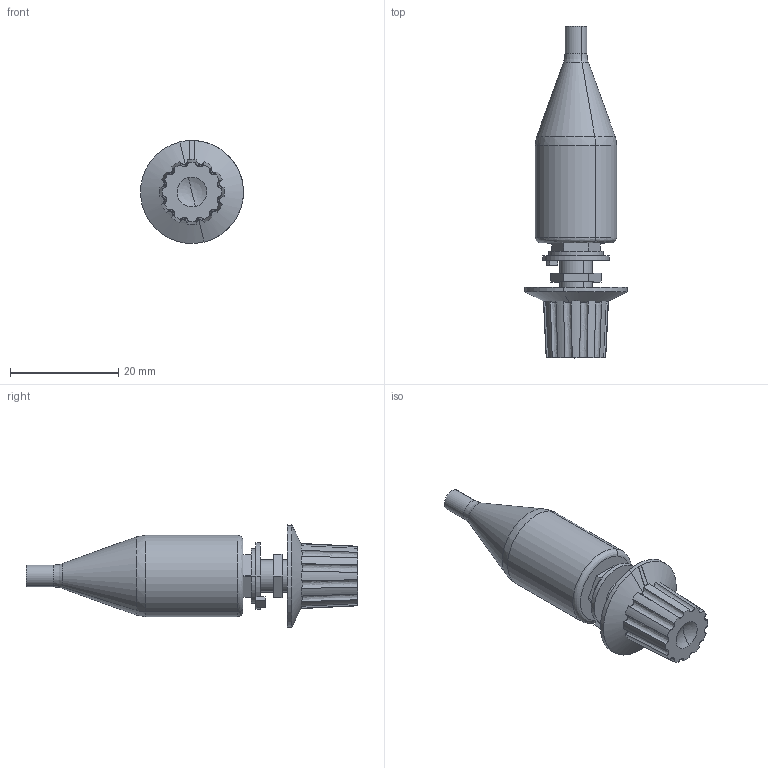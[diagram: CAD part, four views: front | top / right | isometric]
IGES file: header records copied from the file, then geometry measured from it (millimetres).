
Start section: START RECORD GO HERE.
Global section: file name: WA70-X_ROTARY_SWITCH.igs; native system: DASSAULT SYSTEMES CATIA Version 5-6 Release 2018 - www.3ds.com; preprocessor: V5-6R2018_5.28.6.0.03-10-2020.20.00; author: kani-; organization: DESKTOP-5OU850M; date: 20230517.213331; units: millimetre
Bounding box: 18.98 x 61.2 x 18.97 mm (x, y, z)
Surface area: 3251.2 mm2 (no closed solid volume)
Topology: 0 solids, 0 shells, 96 faces, 484 edges, 482 vertices
Faces by surface type: revolution 62, plane 34
